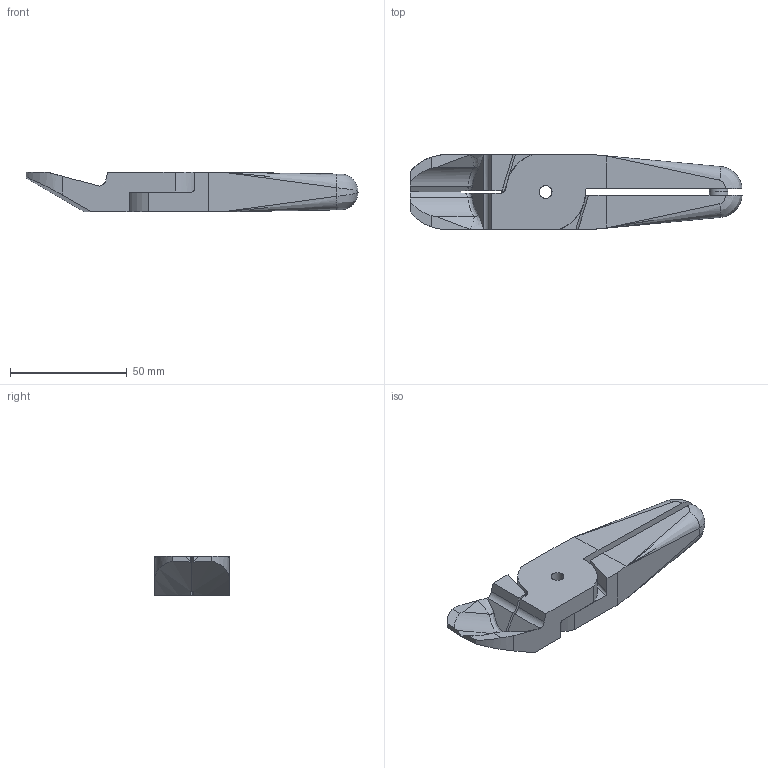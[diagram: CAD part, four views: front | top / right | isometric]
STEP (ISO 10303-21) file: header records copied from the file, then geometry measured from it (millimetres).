
FILE_DESCRIPTION (( 'STEP AP214' ), '1' );
FILE_NAME ('N30PF.STEP', '2019-11-29T08:32:40', ( '微软用户' ), ( '微软中国' ), 'SwSTEP 2.0', 'SolidWorks 2016', '' );
FILE_SCHEMA (( 'AUTOMOTIVE_DESIGN' ));
Length unit declared in the file: millimetre
Products named in the file (1): N30PF
Bounding box: 142 x 32 x 17 mm (x, y, z)
Surface area: 17612.9 mm2 (no closed solid volume)
Topology: 0 solids, 3 shells, 84 faces, 249 edges, 163 vertices
Faces by surface type: plane 44, cylinder 25, bspline 15
Entity records: 5380 total; most frequent: CARTESIAN_POINT 3001, ORIENTED_EDGE 478, DIRECTION 273, EDGE_CURVE 245, VERTEX_POINT 163, B_SPLINE_CURVE_WITH_KNOTS 115, LINE 109, VECTOR 109
